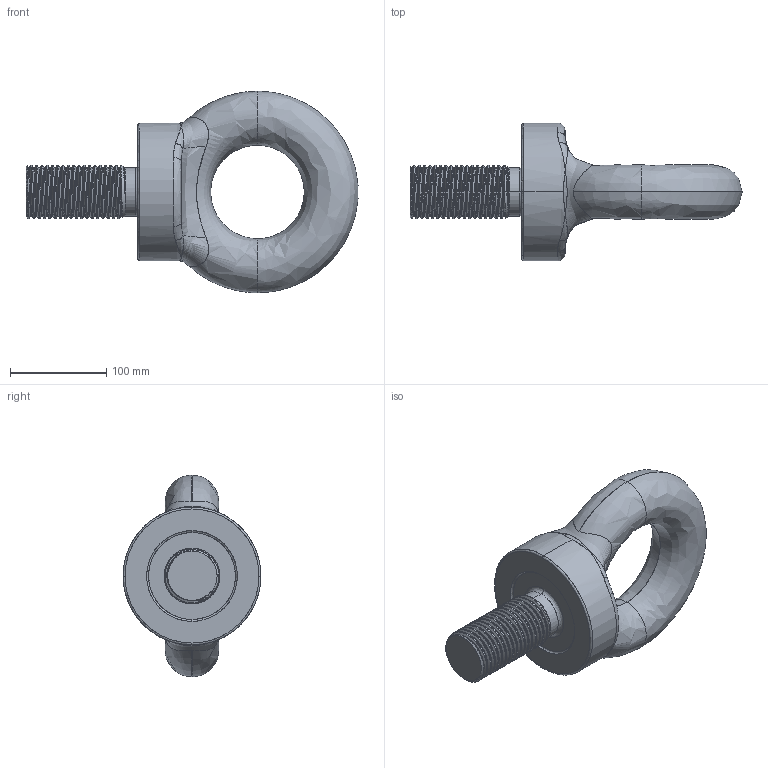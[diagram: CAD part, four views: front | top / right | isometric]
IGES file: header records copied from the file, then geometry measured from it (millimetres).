
Start section: SolidWorks IGES file using analytic representation for surfaces
Global section: file name: C:\Users\Brenton\Documents\Townley\Eye Bolts\Metric\EBMC56\EBMC56.IGS; native system: SolidWorks 2012; preprocessor: SolidWorks 2012; author: Brenton; date: 140228.124844; units: millimetre
Bounding box: 344.3 x 143 x 209 mm (x, y, z)
Surface area: 146757.4 mm2 (no closed solid volume)
Topology: 0 solids, 0 shells, 80 faces, 2909 edges, 2903 vertices
Faces by surface type: revolution 44, bspline 36
